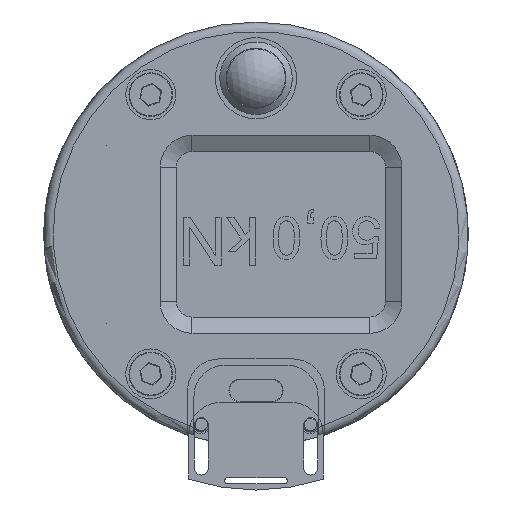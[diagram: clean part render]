
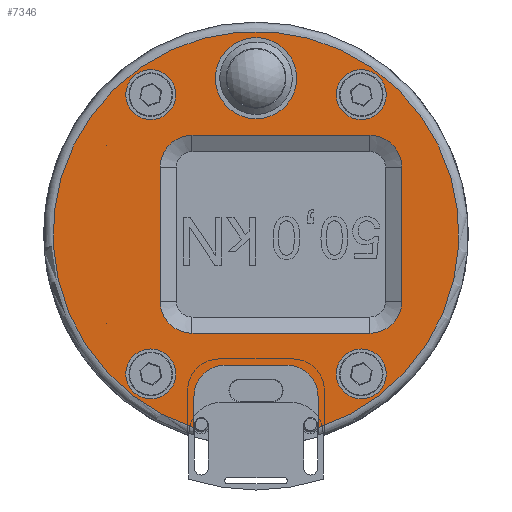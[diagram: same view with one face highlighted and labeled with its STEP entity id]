
A CAD part, left-side view. The second image highlights one B-rep face of the part: STEP entity #7346.
In plain terms, the highlighted planar face has unit normal (-1, 0, 0) as drawn and (0, 1, 0) by its records, which use the part's own axes.
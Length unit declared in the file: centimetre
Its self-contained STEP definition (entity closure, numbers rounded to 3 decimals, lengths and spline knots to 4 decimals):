
#893=CIRCLE('',#7846,0.5);
#895=CIRCLE('',#7850,0.5);
#900=CIRCLE('',#7861,3.25);
#901=CIRCLE('',#7864,0.4);
#902=CIRCLE('',#7865,0.4);
#903=CIRCLE('',#7866,0.4);
#904=CIRCLE('',#7867,0.4);
#905=CIRCLE('',#7868,0.5098);
#906=CIRCLE('',#7869,0.5098);
#907=CIRCLE('',#7870,0.5098);
#908=CIRCLE('',#7871,0.5098);
#909=CIRCLE('',#7872,0.65);
#1440=VERTEX_POINT('',#13161);
#1441=VERTEX_POINT('',#13162);
#1444=VERTEX_POINT('',#13170);
#1446=VERTEX_POINT('',#13189);
#1447=VERTEX_POINT('',#13190);
#1455=VERTEX_POINT('',#13228);
#1456=VERTEX_POINT('',#13247);
#1457=VERTEX_POINT('',#13249);
#1458=VERTEX_POINT('',#13251);
#1459=VERTEX_POINT('',#13253);
#1460=VERTEX_POINT('',#13255);
#1461=VERTEX_POINT('',#13256);
#1462=VERTEX_POINT('',#13258);
#1463=VERTEX_POINT('',#13260);
#1464=VERTEX_POINT('',#13262);
#1465=VERTEX_POINT('',#13264);
#1466=VERTEX_POINT('',#13266);
#1467=VERTEX_POINT('',#13268);
#1468=VERTEX_POINT('',#13271);
#2073=VECTOR('',#9076,1.);
#2078=VECTOR('',#9088,1.);
#2085=VECTOR('',#9110,1.);
#2086=VECTOR('',#9122,1.);
#2087=VECTOR('',#9125,1.);
#2088=VECTOR('',#9128,1.);
#2089=VECTOR('',#9131,1.);
#2673=LINE('',#13169,#2073);
#2678=LINE('',#13198,#2078);
#2685=LINE('',#13244,#2085);
#2686=LINE('',#13257,#2086);
#2687=LINE('',#13261,#2087);
#2688=LINE('',#13265,#2088);
#2689=LINE('',#13269,#2089);
#3525=EDGE_CURVE('',#1440,#1441,#893,.T.);
#3529=EDGE_CURVE('',#1444,#1441,#2673,.T.);
#3532=EDGE_CURVE('',#1446,#1447,#895,.T.);
#3537=EDGE_CURVE('',#1440,#1447,#2678,.T.);
#3548=EDGE_CURVE('',#1444,#1455,#900,.T.);
#3551=EDGE_CURVE('',#1446,#1455,#2685,.T.);
#3552=EDGE_CURVE('',#1456,#1456,#901,.T.);
#3553=EDGE_CURVE('',#1457,#1457,#902,.T.);
#3554=EDGE_CURVE('',#1458,#1458,#903,.T.);
#3555=EDGE_CURVE('',#1459,#1459,#904,.T.);
#3556=EDGE_CURVE('',#1460,#1461,#905,.T.);
#3557=EDGE_CURVE('',#1462,#1460,#2686,.T.);
#3558=EDGE_CURVE('',#1463,#1462,#906,.T.);
#3559=EDGE_CURVE('',#1464,#1463,#2687,.T.);
#3560=EDGE_CURVE('',#1465,#1464,#907,.T.);
#3561=EDGE_CURVE('',#1466,#1465,#2688,.T.);
#3562=EDGE_CURVE('',#1467,#1466,#908,.T.);
#3563=EDGE_CURVE('',#1461,#1467,#2689,.T.);
#3564=EDGE_CURVE('',#1468,#1468,#909,.T.);
#5180=ORIENTED_EDGE('',*,*,#3529,.T.);
#5181=ORIENTED_EDGE('',*,*,#3525,.F.);
#5182=ORIENTED_EDGE('',*,*,#3537,.T.);
#5183=ORIENTED_EDGE('',*,*,#3532,.F.);
#5184=ORIENTED_EDGE('',*,*,#3551,.T.);
#5185=ORIENTED_EDGE('',*,*,#3548,.F.);
#5186=ORIENTED_EDGE('',*,*,#3552,.T.);
#5187=ORIENTED_EDGE('',*,*,#3553,.T.);
#5188=ORIENTED_EDGE('',*,*,#3554,.T.);
#5189=ORIENTED_EDGE('',*,*,#3555,.T.);
#5190=ORIENTED_EDGE('',*,*,#3556,.F.);
#5191=ORIENTED_EDGE('',*,*,#3557,.F.);
#5192=ORIENTED_EDGE('',*,*,#3558,.F.);
#5193=ORIENTED_EDGE('',*,*,#3559,.F.);
#5194=ORIENTED_EDGE('',*,*,#3560,.F.);
#5195=ORIENTED_EDGE('',*,*,#3561,.F.);
#5196=ORIENTED_EDGE('',*,*,#3562,.F.);
#5197=ORIENTED_EDGE('',*,*,#3563,.F.);
#5198=ORIENTED_EDGE('',*,*,#3564,.T.);
#6299=EDGE_LOOP('',(#5180,#5181,#5182,#5183,#5184,#5185));
#6300=EDGE_LOOP('',(#5186));
#6301=EDGE_LOOP('',(#5187));
#6302=EDGE_LOOP('',(#5188));
#6303=EDGE_LOOP('',(#5189));
#6304=EDGE_LOOP('',(#5190,#5191,#5192,#5193,#5194,#5195,#5196,#5197));
#6305=EDGE_LOOP('',(#5198));
#6848=FACE_BOUND('',#6299,.T.);
#6849=FACE_BOUND('',#6300,.T.);
#6850=FACE_BOUND('',#6301,.T.);
#6851=FACE_BOUND('',#6302,.T.);
#6852=FACE_BOUND('',#6303,.T.);
#6853=FACE_BOUND('',#6304,.T.);
#6854=FACE_BOUND('',#6305,.T.);
#7346=ADVANCED_FACE('',(#6848,#6849,#6850,#6851,#6852,#6853,#6854),#14257,
 .T.);
#7846=AXIS2_PLACEMENT_3D('',#13160,#9069,#9070);
#7850=AXIS2_PLACEMENT_3D('',#13188,#9080,#9081);
#7861=AXIS2_PLACEMENT_3D('',#13227,#9107,#9108);
#7863=AXIS2_PLACEMENT_3D('',#13245,#9111,$);
#7864=AXIS2_PLACEMENT_3D('',#13246,#9112,#9113);
#7865=AXIS2_PLACEMENT_3D('',#13248,#9114,#9115);
#7866=AXIS2_PLACEMENT_3D('',#13250,#9116,#9117);
#7867=AXIS2_PLACEMENT_3D('',#13252,#9118,#9119);
#7868=AXIS2_PLACEMENT_3D('',#13254,#9120,#9121);
#7869=AXIS2_PLACEMENT_3D('',#13259,#9123,#9124);
#7870=AXIS2_PLACEMENT_3D('',#13263,#9126,#9127);
#7871=AXIS2_PLACEMENT_3D('',#13267,#9129,#9130);
#7872=AXIS2_PLACEMENT_3D('',#13270,#9132,#9133);
#9069=DIRECTION('',(0.,1.,0.));
#9070=DIRECTION('',(-0.354,0.,0.354));
#9076=DIRECTION('',(-1.,0.,0.));
#9080=DIRECTION('',(0.,1.,0.));
#9081=DIRECTION('',(-0.354,0.,-0.354));
#9088=DIRECTION('',(0.,0.,-1.));
#9107=DIRECTION('',(0.,-1.,0.));
#9108=DIRECTION('',(3.25,0.,0.));
#9110=DIRECTION('',(1.,0.,0.));
#9111=DIRECTION('',(0.,1.,0.));
#9112=DIRECTION('',(0.,-1.,0.));
#9113=DIRECTION('',(0.4,0.,0.));
#9114=DIRECTION('',(0.,-1.,0.));
#9115=DIRECTION('',(0.4,0.,0.));
#9116=DIRECTION('',(0.,-1.,0.));
#9117=DIRECTION('',(0.4,0.,0.));
#9118=DIRECTION('',(0.,-1.,0.));
#9119=DIRECTION('',(0.4,0.,0.));
#9120=DIRECTION('',(0.,1.,0.));
#9121=DIRECTION('',(0.36,0.,0.36));
#9122=DIRECTION('',(1.,0.,0.));
#9123=DIRECTION('',(0.,1.,0.));
#9124=DIRECTION('',(-0.36,0.,0.36));
#9125=DIRECTION('',(0.,0.,1.));
#9126=DIRECTION('',(0.,1.,0.));
#9127=DIRECTION('',(-0.36,0.,-0.36));
#9128=DIRECTION('',(-1.,0.,0.));
#9129=DIRECTION('',(0.,1.,0.));
#9130=DIRECTION('',(0.36,0.,-0.36));
#9131=DIRECTION('',(0.,0.,-1.));
#9132=DIRECTION('',(0.,-1.,0.));
#9133=DIRECTION('',(0.65,0.,0.));
#13160=CARTESIAN_POINT('',(2.5967,0.8,0.4942));
#13161=CARTESIAN_POINT('',(2.0967,0.8,0.4942));
#13162=CARTESIAN_POINT('',(2.5967,0.8,0.9942));
#13169=CARTESIAN_POINT('',(0.9532,0.8,0.9942));
#13170=CARTESIAN_POINT('',(3.0942,0.8,0.9942));
#13188=CARTESIAN_POINT('',(2.5967,0.8,-0.4942));
#13189=CARTESIAN_POINT('',(2.5967,0.8,-0.9942));
#13190=CARTESIAN_POINT('',(2.0967,0.8,-0.4942));
#13198=CARTESIAN_POINT('',(2.0967,0.8,0.));
#13227=CARTESIAN_POINT('',(0.,0.8,0.));
#13228=CARTESIAN_POINT('',(3.0942,0.8,-0.9942));
#13244=CARTESIAN_POINT('',(0.9532,0.8,-0.9942));
#13245=CARTESIAN_POINT('',(-1.7,0.8,0.));
#13246=CARTESIAN_POINT('',(2.2362,0.8,1.6851));
#13247=CARTESIAN_POINT('',(2.6362,0.8,1.6851));
#13248=CARTESIAN_POINT('',(2.2362,0.8,-1.6851));
#13249=CARTESIAN_POINT('',(2.6362,0.8,-1.6851));
#13250=CARTESIAN_POINT('',(-2.2362,0.8,1.6851));
#13251=CARTESIAN_POINT('',(-1.8362,0.8,1.6851));
#13252=CARTESIAN_POINT('',(-2.2362,0.8,-1.6851));
#13253=CARTESIAN_POINT('',(-1.8362,0.8,-1.6851));
#13254=CARTESIAN_POINT('',(1.075,0.8,1.025));
#13255=CARTESIAN_POINT('',(1.075,0.8,1.5348));
#13256=CARTESIAN_POINT('',(1.5848,0.8,1.025));
#13257=CARTESIAN_POINT('',(-0.85,0.8,1.5348));
#13258=CARTESIAN_POINT('',(-1.075,0.8,1.5348));
#13259=CARTESIAN_POINT('',(-1.075,0.8,1.025));
#13260=CARTESIAN_POINT('',(-1.5848,0.8,1.025));
#13261=CARTESIAN_POINT('',(-1.5848,0.8,-0.2));
#13262=CARTESIAN_POINT('',(-1.5848,0.8,-1.825));
#13263=CARTESIAN_POINT('',(-1.075,0.8,-1.825));
#13264=CARTESIAN_POINT('',(-1.075,0.8,-2.3348));
#13265=CARTESIAN_POINT('',(-0.85,0.8,-2.3348));
#13266=CARTESIAN_POINT('',(1.075,0.8,-2.3348));
#13267=CARTESIAN_POINT('',(1.075,0.8,-1.825));
#13268=CARTESIAN_POINT('',(1.5848,0.8,-1.825));
#13269=CARTESIAN_POINT('',(1.5848,0.8,-0.2));
#13270=CARTESIAN_POINT('',(-2.5,0.8,0.));
#13271=CARTESIAN_POINT('',(-1.85,0.8,0.));
#14257=PLANE('',#7863);
